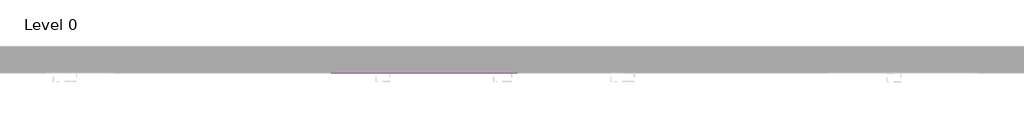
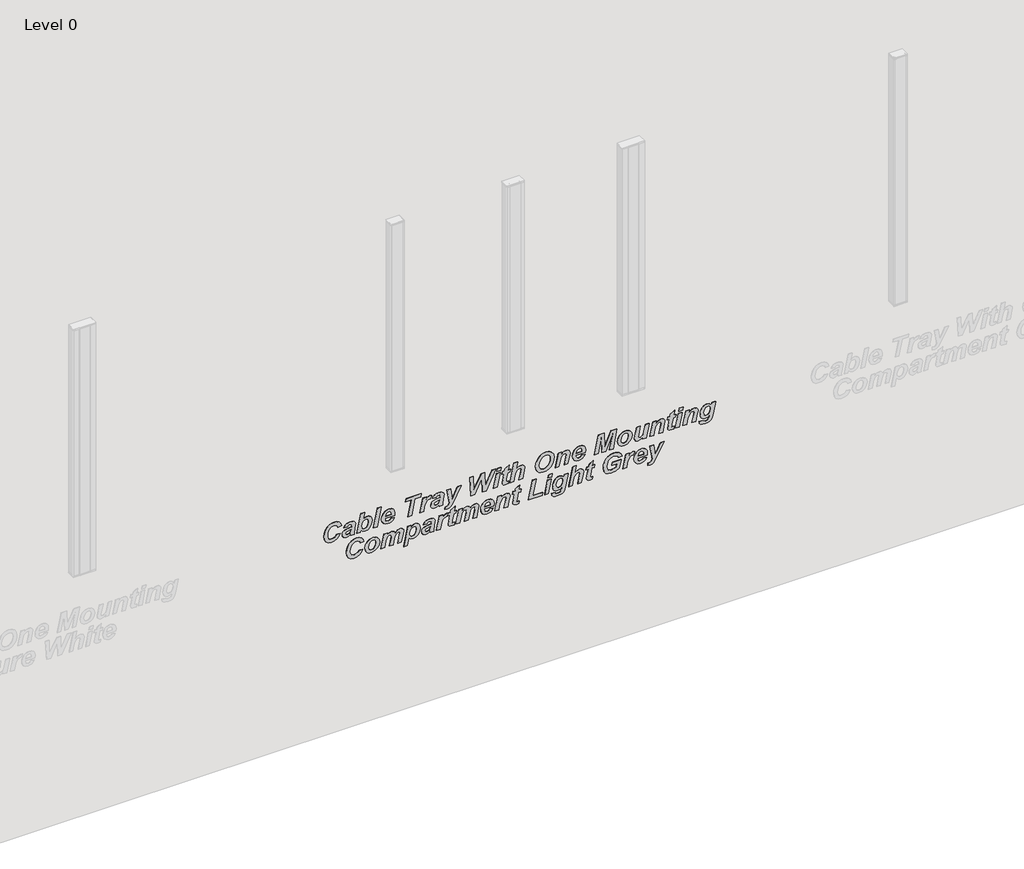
# One storey, part 3 of 5: 1 proxy.
"""IFC4 building model written with IfcOpenShell, lengths in millimetres."""

import ifcopenshell
import ifcopenshell.guid

model = None  # the IFC model being written
_history = None  # IfcOwnerHistory: only IFC2X3 demands one
_inside = {}  # id of a spatial element -> (the spatial element, [elements in it])
_under = {}  # id of a project, library or spatial element -> (it, [spatial elements below it])
_declared = {}  # id of a project -> (the project, [libraries it declares])
_typed = {}  # id of a type object -> (the type object, [elements of that type])
_made_of = {}  # id of a material, layer set ... -> (it, [elements and type objects made of it])


def new_model(schema):
    """Start an empty IFC model of exactly this schema.

    Asked for "IFC4X3", IfcOpenShell would pick the latest addendum, in which some entities
    have other attributes; the version numbers below select the first issue.
    IFC2X3 requires an IfcOwnerHistory on every rooted entity: one is made here for all.
    """
    global model, _history
    if schema == "IFC4X3":
        model = ifcopenshell.file(schema_version=(4, 3, 0, 0))
    else:
        model = ifcopenshell.file(schema=schema)
    _inside.clear()
    _under.clear()
    _declared.clear()
    _typed.clear()
    _made_of.clear()
    _history = None
    if model.schema == "IFC2X3":
        org = make("IfcOrganization", Name="unknown")
        user = make(
            "IfcPersonAndOrganization",
            ThePerson=make("IfcPerson", FamilyName="unknown"),
            TheOrganization=org,
        )
        app = make(
            "IfcApplication",
            ApplicationDeveloper=org,
            Version="unknown",
            ApplicationFullName="unknown",
            ApplicationIdentifier="unknown",
        )
        _history = make(
            "IfcOwnerHistory",
            OwningUser=user,
            OwningApplication=app,
            ChangeAction="ADDED",
            CreationDate=0,
        )
    return model


def make(cls, **values):
    """One entity of the class cls with the attributes given. An attribute that is None is left unset."""
    return model.create_entity(
        cls, **{name: value for name, value in values.items() if value is not None}
    )


def rooted(cls, **values):
    """An entity with a GlobalId (a new one), such as an element, a storey or a relation."""
    return make(cls, GlobalId=ifcopenshell.guid.new(), OwnerHistory=_history, **values)


def si_unit(unit_type, name, prefix=None):
    """IfcSIUnit, for example si_unit("LENGTHUNIT", "METRE", prefix="MILLI")."""
    return make("IfcSIUnit", UnitType=unit_type, Prefix=prefix, Name=name)


def assignment(units):
    """IfcUnitAssignment: the units of a project."""
    return None if units is None else make("IfcUnitAssignment", Units=units)


def point(xyz):
    """IfcCartesianPoint."""
    return None if xyz is None else make("IfcCartesianPoint", Coordinates=xyz)


def direction(xyz):
    """IfcDirection."""
    return None if xyz is None else make("IfcDirection", DirectionRatios=xyz)


def frame(location, z_axis=None, x_axis=None):
    """IfcAxis2Placement3D, a coordinate frame: its origin and axes. An axis left out is left unset."""
    return make(
        "IfcAxis2Placement3D",
        Location=point(location),
        Axis=direction(z_axis),
        RefDirection=direction(x_axis),
    )


def origin():
    """The frame at (0, 0, 0) with its axes left unset."""
    return frame((0.0, 0.0, 0.0))


def place(relative_to, where):
    """IfcLocalPlacement: puts the frame where relative to a parent placement (None: the world)."""
    return make(
        "IfcLocalPlacement", PlacementRelTo=relative_to, RelativePlacement=where
    )


def context(
    kind, dimensions, precision=None, world=None, true_north=None, identifier=None
):
    """IfcGeometricRepresentationContext, for example the 3D "Model" context."""
    return make(
        "IfcGeometricRepresentationContext",
        ContextIdentifier=identifier,
        ContextType=kind,
        CoordinateSpaceDimension=dimensions,
        Precision=precision,
        WorldCoordinateSystem=world,
        TrueNorth=true_north,
    )


def project(units=None, contexts=None):
    """IfcProject with its units and contexts."""
    return rooted(
        "IfcProject",
        Name="project",
        RepresentationContexts=contexts,
        UnitsInContext=assignment(units),
    )


def spatial(cls, under=None, at=None, **own):
    """A site, building, storey or space (cls), placed at a placement, below another one or the project."""
    s = rooted(cls, ObjectPlacement=at, **own)
    if under is not None:
        _under.setdefault(under.id(), (under, []))[1].append(s)
    return s


def polyline(points):
    """IfcPolyline through the points."""
    return make("IfcPolyline", Points=[point(p) for p in points])


def outline(outer, holes=None, kind="AREA"):
    """IfcArbitraryClosedProfileDef: a profile drawn as a closed curve; with holes, ...WithVoids."""
    if holes is None:
        return make("IfcArbitraryClosedProfileDef", ProfileType=kind, OuterCurve=outer)
    return make(
        "IfcArbitraryProfileDefWithVoids",
        ProfileType=kind,
        OuterCurve=outer,
        InnerCurves=holes,
    )


def extrude(swept, where, along, depth):
    """IfcExtrudedAreaSolid: the profile swept, set in the frame where, extruded along a direction by depth."""
    return make(
        "IfcExtrudedAreaSolid",
        SweptArea=swept,
        Position=where,
        ExtrudedDirection=direction(along),
        Depth=depth,
    )


def shape(context_of_items, identifier, shape_type, items):
    """IfcShapeRepresentation: the items that make up one representation, for example the "Body"."""
    return make(
        "IfcShapeRepresentation",
        ContextOfItems=context_of_items,
        RepresentationIdentifier=identifier,
        RepresentationType=shape_type,
        Items=items,
    )


def made_of(thing, what):
    """Note that an element or type object is made of a material, layer set ...; save() writes the relation."""
    if what is not None:
        _made_of.setdefault(what.id(), (what, []))[1].append(thing)
    return thing


def element(
    cls,
    number,
    at=None,
    inside=None,
    cuts=None,
    type_object=None,
    material=None,
    context=None,
    identifier="Body",
    shape_type=None,
    held_by="IfcProductDefinitionShape",
    body=None,
    shapes=None,
    **own,
):
    """One element of the class cls, such as IfcWall. Its Tag is "e" and its number.

    at: its placement. inside: the storey or other place that contains it. cuts: it is an
    opening in that element (IfcRelVoidsElement). A single representation is given by context,
    identifier, shape_type and body (its items); several are given by shapes. held_by: the class
    of the entity that holds the representations. save() writes the other relations.
    """
    e = rooted(cls, Tag="e%d" % number, ObjectPlacement=at, **own)
    if body is not None:
        shapes = [shape(context, identifier, shape_type, body)]
    if shapes is not None:
        e.Representation = make(held_by, Representations=shapes)
    if inside is not None:
        _inside.setdefault(inside.id(), (inside, []))[1].append(e)
    if cuts is not None:
        rooted(
            "IfcRelVoidsElement", RelatingBuildingElement=cuts, RelatedOpeningElement=e
        )
    if type_object is not None:
        _typed.setdefault(type_object.id(), (type_object, []))[1].append(e)
    return made_of(e, material)


def aggregate(whole, parts):
    """IfcRelAggregates: a whole, such as a stair, and the parts it consists of."""
    return rooted("IfcRelAggregates", RelatingObject=whole, RelatedObjects=parts)


def save(model, path):
    """Write the relations noted so far, then the file.

    IfcRelAggregates (storeys below a building ...), IfcRelContainedInSpatialStructure (elements
    in a storey), IfcRelDefinesByType, IfcRelAssociatesMaterial and IfcRelDeclares: one each for
    every whole, place, type object, material and project.
    """
    for whole, parts in _under.values():
        aggregate(whole, parts)
    for where, things in _inside.values():
        rooted(
            "IfcRelContainedInSpatialStructure",
            RelatedElements=things,
            RelatingStructure=where,
        )
    for kind, things in _typed.values():
        rooted("IfcRelDefinesByType", RelatedObjects=things, RelatingType=kind)
    for what, things in _made_of.values():
        rooted("IfcRelAssociatesMaterial", RelatedObjects=things, RelatingMaterial=what)
    for by, libraries in _declared.values():
        rooted("IfcRelDeclares", RelatingContext=by, RelatedDefinitions=libraries)
    model.write(path)


model = new_model("IFC4")

# Units and contexts
model_context = context("Model", 3, world=origin())
ifc_project = project(units=[si_unit("LENGTHUNIT", "METRE", prefix="MILLI")], contexts=[model_context])

# Site, building, storey
site = spatial("IfcSite", under=ifc_project)
building = spatial("IfcBuilding", under=site)
storey = spatial("IfcBuildingStorey", under=building, Name="Level 0", Elevation=0.0)

# Proxy
placement = place(None, origin())
element("IfcBuildingElementProxy", 1, Name="200 mm Arial", ObjectType="200 mm Arial", at=placement, inside=storey, context=model_context, shape_type="SweptSolid", body=[
    extrude(outline(polyline([(1591.7743973, -7840.8646037), (1581.4274851, -7847.2308612), (1573.973058, -7856.2105859), (1567.9648735, -7878.8110323), (1570.41093, -7890.9994623), (1577.7490996, -7901.0022525), (1589.5794568, -7907.6847302), (1605.5020758, -7909.9122228), (1621.9222767, -7908.2009132), (1638.3703794, -7903.0669847), (1652.6560937, -7895.0824237), (1662.5891294, -7884.8192168), (1668.4066517, -7872.9842094), (1670.3458258, -7860.2842466), (1668.9367857, -7849.4723046), (1664.7096651, -7841.0692168), (1657.348244, -7835.0377808), (1646.536302, -7831.3407942), (1649.2892782, -7802.7693656), (1668.8670312, -7808.493882), (1683.8502901, -7820.384693), (1693.364799, -7837.6698493), (1696.536302, -7859.5774013), (1693.7321726, -7880.3409802), (1685.3197842, -7899.4769549), (1671.6153571, -7915.8041498), (1652.9351115, -7928.1413894), (1630.6787871, -7935.8980859), (1606.2461235, -7938.4836513), (1578.5396502, -7934.6797079), (1558.2922544, -7923.2678775), (1545.9038615, -7905.0945144), (1541.7743973, -7881.0059728), (1544.7505877, -7858.5357347), (1553.6791592, -7839.1160918), (1568.2438913, -7823.46319), (1588.1285639, -7812.2931751), (1591.7743973, -7840.8646037)])), frame((0.0, 4018.0812827, 0.0), z_axis=(0.0, 1.0, 0.0), x_axis=(0.0, 0.0, 1.0)), (0.0, 0.0, 1.0), 3.0),
    extrude(outline(polyline([(1622.7267782, -7757.5312704), (1631.5251413, -7751.3928775), (1634.6315401, -7739.0788894), (1631.3763318, -7727.9553775), (1623.2848139, -7724.1979371), (1613.2029687, -7726.1324609), (1609.036302, -7754.0342466), (1605.2742112, -7774.9931379), (1597.8569865, -7788.3906454), (1587.0636458, -7795.603257), (1573.1732068, -7798.0074609), (1560.598802, -7795.8404222), (1550.5541592, -7789.3393061), (1543.9693377, -7779.5085769), (1541.7743973, -7767.352699), (1545.4946354, -7750.7232347), (1556.2833258, -7736.102699), (1544.1553496, -7733.7217466), (1544.1553496, -7704.6294847), (1559.7059449, -7707.5312704), (1587.0868973, -7702.9925799), (1616.3093675, -7696.5379668), (1626.8190401, -7695.6265085), (1638.1239136, -7698.1330189), (1647.5593675, -7705.6525501), (1653.9349255, -7718.4083165), (1656.0601115, -7736.6235323), (1654.0093303, -7754.7736439), (1647.8569865, -7768.9710025), (1638.0588095, -7779.3644177), (1625.0705282, -7786.102699), (1622.7267782, -7757.5312704)]), holes=[polyline([(1594.1553496, -7730.2619251), (1590.286302, -7731.1175799), (1574.6240996, -7736.0840978), (1566.4023735, -7744.5290382), (1563.2029687, -7756.5640085), (1566.6999925, -7765.9018061), (1575.2937425, -7769.4360323), (1585.1151711, -7764.8229371), (1592.8532663, -7737.0699609), (1594.1553496, -7730.2619251)])]), frame((0.0, 4018.0812827, 0.0), z_axis=(0.0, 1.0, 0.0), x_axis=(0.0, 0.0, 1.0)), (0.0, 0.0, 1.0), 3.0),
    extrude(outline(polyline([(1544.1553496, -7686.102699), (1544.1553496, -7659.4285918), (1561.380052, -7655.6711513), (1546.675811, -7641.915571), (1541.7743973, -7622.0774013), (1546.0340699, -7603.680824), (1559.0921056, -7586.9397525), (1581.9157663, -7574.1979371), (1610.8220163, -7569.4360323), (1630.2881621, -7572.0076469), (1644.4901711, -7579.7224906), (1653.1676264, -7591.7063076), (1656.0601115, -7607.0848418), (1653.4187425, -7622.3192168), (1644.6017782, -7637.3303775), (1694.1553496, -7626.3928775), (1694.1553496, -7655.4851394), (1544.1553496, -7686.102699)]), holes=[polyline([(1588.1657663, -7648.0074609), (1608.1713467, -7645.2916871), (1624.2892782, -7637.1443656), (1632.0459746, -7628.4855115), (1634.6315401, -7618.2827585), (1632.9620833, -7610.49351), (1627.9537127, -7603.9412406), (1620.0249553, -7599.4909058), (1609.5943377, -7598.0074609), (1585.7662127, -7602.415943), (1568.5787127, -7613.4650501), (1563.2029687, -7627.4345442), (1564.9375297, -7635.1912406), (1570.1412127, -7641.869068), (1578.1164732, -7646.4728626), (1588.1657663, -7648.0074609)])]), frame((0.0, 4018.0812827, 0.0), z_axis=(0.0, 1.0, 0.0), x_axis=(0.0, 0.0, 1.0)), (0.0, 0.0, 1.0), 3.0),
    extrude(outline(polyline([(1544.1553496, -7559.9122228), (1544.1553496, -7530.8199609), (1694.1553496, -7500.2396037), (1694.1553496, -7529.2946632), (1544.1553496, -7559.9122228)])), frame((0.0, 4018.0812827, 0.0), z_axis=(0.0, 1.0, 0.0), x_axis=(0.0, 0.0, 1.0)), (0.0, 0.0, 1.0), 3.0),
    extrude(outline(polyline([(1589.3934449, -7397.6354371), (1608.738683, -7395.6265085), (1628.6512574, -7398.5189936), (1643.5973139, -7407.196449), (1652.9444121, -7420.7846186), (1656.0601115, -7438.4092466), (1654.5836421, -7452.9251506), (1650.1542336, -7465.6692912), (1642.7718861, -7476.6416684), (1632.4365996, -7485.8422823), (1613.723802, -7494.9661662), (1592.5556473, -7498.0074609), (1571.8850743, -7494.6173939), (1555.7066889, -7484.447193), (1545.2574702, -7468.8547451), (1541.7743973, -7449.1979371), (1543.7089211, -7434.1635248), (1549.5124925, -7420.6823121), (1559.1851115, -7409.2565308), (1572.7267782, -7400.3884132), (1577.488683, -7426.5788894), (1566.7743973, -7436.1119996), (1563.2029687, -7448.7887109), (1564.8259226, -7456.8244251), (1569.6947842, -7463.5208537), (1577.2143154, -7468.040943), (1586.7892782, -7469.5476394), (1589.3934449, -7469.4360323), (1589.3934449, -7397.6354371)]), holes=[polyline([(1606.0601115, -7424.1979371), (1606.0601115, -7466.5342466), (1618.4671056, -7463.1116275), (1627.4142782, -7457.5312704), (1632.8272246, -7450.4442168), (1634.6315401, -7442.5015085), (1633.0411383, -7434.9447748), (1628.269933, -7429.0900501), (1620.317924, -7425.33726), (1609.1851115, -7424.0863299), (1606.0601115, -7424.1979371)])]), frame((0.0, 4018.0812827, 0.0), z_axis=(0.0, 1.0, 0.0), x_axis=(0.0, 0.0, 1.0)), (0.0, 0.0, 1.0), 3.0),
    extrude(outline(polyline([(1544.1553496, -7268.0595442), (1670.3458258, -7242.5759132), (1670.3458258, -7198.0074609), (1694.1553496, -7193.2455561), (1694.1553496, -7309.9122228), (1670.3458258, -7314.6741275), (1670.3458258, -7271.6681751), (1544.1553496, -7297.1518061), (1544.1553496, -7268.0595442)])), frame((0.0, 4018.0812827, 0.0), z_axis=(0.0, 1.0, 0.0), x_axis=(0.0, 0.0, 1.0)), (0.0, 0.0, 1.0), 3.0),
    extrude(outline(polyline([(1653.6791592, -7183.0149013), (1544.1553496, -7205.150318), (1544.1553496, -7176.0952585), (1577.9723139, -7169.2872228), (1608.6270758, -7160.5446632), (1624.0846651, -7148.2306751), (1629.8696354, -7132.7544847), (1628.4559449, -7124.1979371), (1652.8235044, -7112.2931751), (1656.0601115, -7125.6116275), (1650.2472395, -7142.5387109), (1632.8086235, -7158.2009132), (1653.6791592, -7153.9598418), (1653.6791592, -7183.0149013)])), frame((0.0, 4018.0812827, 0.0), z_axis=(0.0, 1.0, 0.0), x_axis=(0.0, 0.0, 1.0)), (0.0, 0.0, 1.0), 3.0),
    extrude(outline(polyline([(1622.7267782, -7081.3407942), (1631.5251413, -7075.2024013), (1634.6315401, -7062.8884132), (1631.3763318, -7051.7649013), (1623.2848139, -7048.0074609), (1613.2029687, -7049.9419847), (1609.036302, -7077.8437704), (1605.2742112, -7098.8026618), (1597.8569865, -7112.2001692), (1587.0636458, -7119.4127808), (1573.1732068, -7121.8169847), (1560.598802, -7119.649946), (1550.5541592, -7113.1488299), (1543.9693377, -7103.3181007), (1541.7743973, -7091.1622228), (1545.4946354, -7074.5327585), (1556.2833258, -7059.9122228), (1544.1553496, -7057.5312704), (1544.1553496, -7028.4390085), (1559.7059449, -7031.3407942), (1587.0868973, -7026.8021037), (1616.3093675, -7020.3474906), (1626.8190401, -7019.4360323), (1638.1239136, -7021.9425427), (1647.5593675, -7029.462074), (1653.9349255, -7042.2178403), (1656.0601115, -7060.4330561), (1654.0093303, -7078.5831677), (1647.8569865, -7092.7805263), (1638.0588095, -7103.1739415), (1625.0705282, -7109.9122228), (1622.7267782, -7081.3407942)]), holes=[polyline([(1594.1553496, -7054.071449), (1590.286302, -7054.9271037), (1574.6240996, -7059.8936216), (1566.4023735, -7068.3385621), (1563.2029687, -7080.3735323), (1566.6999925, -7089.7113299), (1575.2937425, -7093.2455561), (1585.1151711, -7088.6324609), (1592.8532663, -7060.8794847), (1594.1553496, -7054.071449)])]), frame((0.0, 4018.0812827, 0.0), z_axis=(0.0, 1.0, 0.0), x_axis=(0.0, 0.0, 1.0)), (0.0, 0.0, 1.0), 3.0),
    extrude(outline(polyline([(1653.6791592, -6998.0074609), (1544.1553496, -6981.3407942), (1528.0839211, -6990.7529966), (1522.7267782, -7002.4717466), (1524.2520758, -7012.2931751), (1504.2743973, -7014.6741275), (1501.2982068, -6994.3988299), (1504.4232068, -6978.8296335), (1513.035558, -6967.743324), (1532.2505877, -6955.150318), (1653.6791592, -6888.0744251), (1653.6791592, -6919.4360323), (1603.1955282, -6943.3943656), (1570.3458258, -6958.9821632), (1598.2104092, -6962.3675799), (1653.6791592, -6969.1384132), (1653.6791592, -6998.0074609)])), frame((0.0, 4018.0812827, 0.0), z_axis=(0.0, 1.0, 0.0), x_axis=(0.0, 0.0, 1.0)), (0.0, 0.0, 1.0), 3.0),
    extrude(outline(polyline([(1544.1553496, -6698.0074609), (1694.1553496, -6626.5788894), (1694.1553496, -6655.150318), (1590.286302, -6705.150318), (1694.1553496, -6707.5312704), (1694.1553496, -6737.4419847), (1589.1702306, -6793.2455561), (1694.1553496, -6795.6265085), (1694.1553496, -6824.1979371), (1544.1553496, -6814.6741275), (1544.1553496, -6783.7217466), (1653.8279687, -6731.3407942), (1544.1553496, -6728.9598418), (1544.1553496, -6698.0074609)])), frame((0.0, 4018.0812827, 0.0), z_axis=(0.0, 1.0, 0.0), x_axis=(0.0, 0.0, 1.0)), (0.0, 0.0, 1.0), 3.0),
    extrude(outline(polyline([(1653.6791592, -6620.8869251), (1544.1553496, -6643.2455561), (1544.1553496, -6614.1532942), (1653.6791592, -6591.7946632), (1653.6791592, -6620.8869251)])), frame((0.0, 4018.0812827, 0.0), z_axis=(0.0, 1.0, 0.0), x_axis=(0.0, 0.0, 1.0)), (0.0, 0.0, 1.0), 3.0),
    extrude(outline(polyline([(1694.1553496, -6612.6279966), (1670.3458258, -6617.5015085), (1670.3458258, -6588.4092466), (1694.1553496, -6583.5357347), (1694.1553496, -6612.6279966)])), frame((0.0, 4018.0812827, 0.0), z_axis=(0.0, 1.0, 0.0), x_axis=(0.0, 0.0, 1.0)), (0.0, 0.0, 1.0), 3.0),
    extrude(outline(polyline([(1632.2505877, -6578.9598418), (1632.2505877, -6563.0744251), (1586.7148735, -6572.0774013), (1563.9842187, -6576.5788894), (1554.6743229, -6574.8117763), (1547.6523735, -6569.5104371), (1543.2438913, -6560.321449), (1541.7743973, -6546.8913894), (1543.1880877, -6531.3407942), (1563.2029687, -6526.5788894), (1562.5333258, -6536.3631156), (1564.4306473, -6544.212818), (1569.7133854, -6546.3705561), (1583.7758854, -6543.5431751), (1632.2505877, -6533.9077585), (1632.2505877, -6517.0550799), (1653.6791592, -6512.2931751), (1653.6791592, -6529.6294847), (1689.3934449, -6522.4866275), (1670.3458258, -6555.3363299), (1653.6791592, -6558.8333537), (1653.6791592, -6574.1979371), (1632.2505877, -6578.9598418)])), frame((0.0, 4018.0812827, 0.0), z_axis=(0.0, 1.0, 0.0), x_axis=(0.0, 0.0, 1.0)), (0.0, 0.0, 1.0), 3.0),
    extrude(outline(polyline([(1544.1553496, -6487.962818), (1587.0868973, -6479.1830561), (1612.7565401, -6472.5982347), (1629.4604092, -6459.056568), (1634.6315401, -6444.7708537), (1631.1903199, -6435.4702585), (1622.019933, -6432.0476394), (1608.4410639, -6434.7262109), (1544.1553496, -6448.0074609), (1544.1553496, -6418.915199), (1607.2133854, -6405.8943656), (1627.005052, -6401.8393061), (1638.7749553, -6403.7877808), (1648.0429985, -6409.6332049), (1654.0558333, -6418.8361439), (1656.0601115, -6430.8571632), (1652.3026711, -6449.5699609), (1640.0258854, -6468.3943656), (1694.1553496, -6457.3452585), (1694.1553496, -6486.4375204), (1544.1553496, -6517.0550799), (1544.1553496, -6487.962818)])), frame((0.0, 4018.0812827, 0.0), z_axis=(0.0, 1.0, 0.0), x_axis=(0.0, 0.0, 1.0)), (0.0, 0.0, 1.0), 3.0),
    extrude(outline(polyline([(1603.0839211, -6321.8169847), (1574.7729092, -6316.0134132), (1561.8822842, -6308.1823121), (1551.2610044, -6296.2961513), (1544.146049, -6280.7269549), (1541.7743973, -6261.8467466), (1544.7598883, -6239.4509132), (1553.7163615, -6219.5104371), (1568.2066889, -6202.7461141), (1587.7937425, -6189.8787406), (1610.3104836, -6181.6895665), (1633.5898735, -6178.9598418), (1659.2455654, -6183.14976), (1679.2929985, -6195.7195144), (1692.2254761, -6215.0973046), (1696.536302, -6239.7113299), (1694.4343675, -6258.9496112), (1688.1285639, -6275.9650501), (1678.2001785, -6290.5111811), (1665.2304985, -6302.3415382), (1649.4334374, -6311.4700725), (1631.0229092, -6317.9107347), (1603.0839211, -6321.8169847)]), holes=[polyline([(1603.8279687, -6293.2455561), (1627.6979464, -6289.6601766), (1649.5310937, -6278.9040382), (1665.1421428, -6262.4280338), (1670.3458258, -6241.6830561), (1667.8579166, -6228.1134876), (1660.3941889, -6217.1666871), (1648.5591815, -6209.9401246), (1632.957433, -6207.5312704), (1617.0766666, -6209.4332421), (1600.7587723, -6215.1391573), (1586.3242485, -6223.7561588), (1576.0935937, -6234.3913894), (1569.9970535, -6246.2868507), (1567.9648735, -6258.6845442), (1570.5411383, -6272.7005412), (1578.269933, -6283.7217466), (1589.8119717, -6290.8646037), (1603.8279687, -6293.2455561)])]), frame((0.0, 4018.0812827, 0.0), z_axis=(0.0, 1.0, 0.0), x_axis=(0.0, 0.0, 1.0)), (0.0, 0.0, 1.0), 3.0),
    extrude(outline(polyline([(1653.6791592, -6149.681568), (1544.1553496, -6171.8169847), (1544.1553496, -6142.7619251), (1588.6121949, -6133.758949), (1614.7282663, -6125.3140085), (1629.1627901, -6113.2046335), (1634.6315401, -6099.1607347), (1631.2275223, -6090.1019549), (1621.8711235, -6086.8467466), (1605.4276711, -6090.1205561), (1544.1553496, -6102.7693656), (1544.1553496, -6073.6771037), (1605.2044568, -6061.0654966), (1626.4098139, -6056.712818), (1638.5098883, -6058.6380412), (1647.9499925, -6064.4137109), (1654.0325818, -6073.5189936), (1656.0601115, -6085.4330561), (1651.8562425, -6104.462074), (1637.7565401, -6123.8631156), (1653.6791592, -6120.6265085), (1653.6791592, -6149.681568)])), frame((0.0, 4018.0812827, 0.0), z_axis=(0.0, 1.0, 0.0), x_axis=(0.0, 0.0, 1.0)), (0.0, 0.0, 1.0), 3.0),
    extrude(outline(polyline([(1589.3934449, -5940.4925799), (1608.738683, -5938.4836513), (1628.6512574, -5941.3761365), (1643.5973139, -5950.0535918), (1652.9444121, -5963.6417615), (1656.0601115, -5981.2663894), (1654.5836421, -5995.7822934), (1650.1542336, -6008.5264341), (1642.7718861, -6019.4988113), (1632.4365996, -6028.6994251), (1613.723802, -6037.8233091), (1592.5556473, -6040.8646037), (1571.8850743, -6037.4745368), (1555.7066889, -6027.3043359), (1545.2574702, -6011.7118879), (1541.7743973, -5992.0550799), (1543.7089211, -5977.0206677), (1549.5124925, -5963.5394549), (1559.1851115, -5952.1136737), (1572.7267782, -5943.2455561), (1577.488683, -5969.4360323), (1566.7743973, -5978.9691424), (1563.2029687, -5991.6458537), (1564.8259226, -5999.681568), (1569.6947842, -6006.3779966), (1577.2143154, -6010.8980859), (1586.7892782, -6012.4047823), (1589.3934449, -6012.2931751), (1589.3934449, -5940.4925799)]), holes=[polyline([(1606.0601115, -5967.0550799), (1606.0601115, -6009.3913894), (1618.4671056, -6005.9687704), (1627.4142782, -6000.3884132), (1632.8272246, -5993.3013597), (1634.6315401, -5985.3586513), (1633.0411383, -5977.8019177), (1628.269933, -5971.947193), (1620.317924, -5968.1944028), (1609.1851115, -5966.9434728), (1606.0601115, -5967.0550799)])]), frame((0.0, 4018.0812827, 0.0), z_axis=(0.0, 1.0, 0.0), x_axis=(0.0, 0.0, 1.0)), (0.0, 0.0, 1.0), 3.0),
    extrude(outline(polyline([(1544.1553496, -5786.102699), (1667.9648735, -5732.5312704), (1544.1553496, -5757.5312704), (1544.1553496, -5728.4390085), (1694.1553496, -5700.2768061), (1694.1553496, -5746.258949), (1586.7148735, -5793.2455561), (1694.1553496, -5797.821449), (1694.1553496, -5841.571449), (1544.1553496, -5872.2262109), (1544.1553496, -5843.2455561), (1668.0392782, -5820.6265085), (1544.1553496, -5814.6741275), (1544.1553496, -5786.102699)])), frame((0.0, 4018.0812827, 0.0), z_axis=(0.0, 1.0, 0.0), x_axis=(0.0, 0.0, 1.0)), (0.0, 0.0, 1.0), 3.0),
    extrude(outline(polyline([(1589.6538615, -5695.6265085), (1565.4165104, -5689.8415382), (1555.4044196, -5682.5591722), (1547.9499925, -5672.2820144), (1543.3182961, -5659.6471558), (1541.7743973, -5645.2916871), (1546.6060565, -5620.040571), (1561.1010342, -5600.462818), (1582.2180357, -5587.9070144), (1606.9157663, -5583.7217466), (1627.1259598, -5587.0699609), (1642.7416592, -5597.1146037), (1652.7304985, -5613.1209281), (1656.0601115, -5634.3541871), (1651.5493229, -5659.1960769), (1638.0169568, -5678.7366275), (1616.9046056, -5691.4040382), (1589.6538615, -5695.6265085)]), holes=[polyline([(1610.7848139, -5612.2931751), (1590.7048288, -5615.2414638), (1573.9172544, -5624.0863299), (1565.8815401, -5633.3311216), (1563.2029687, -5644.5476394), (1564.9793824, -5653.4297079), (1570.3086235, -5660.6562704), (1578.6512574, -5665.4553775), (1589.4678496, -5667.0550799), (1610.8406175, -5662.9256156), (1628.5303496, -5651.3556751), (1633.1062425, -5643.3757644), (1634.6315401, -5634.3169847), (1633.003936, -5625.4953701), (1628.1211235, -5618.4501692), (1620.5318377, -5613.8324237), (1610.7848139, -5612.2931751)])]), frame((0.0, 4018.0812827, 0.0), z_axis=(0.0, 1.0, 0.0), x_axis=(0.0, 0.0, 1.0)), (0.0, 0.0, 1.0), 3.0),
    extrude(outline(polyline([(1653.6791592, -5549.4583537), (1592.2580282, -5563.2232347), (1569.5273735, -5566.9806751), (1558.129494, -5565.1438076), (1549.3078794, -5559.6332049), (1543.6577678, -5550.9045963), (1541.7743973, -5539.4137109), (1546.1363764, -5519.8917615), (1559.2223139, -5501.8765085), (1544.1553496, -5504.9643061), (1544.1553496, -5476.0580561), (1653.6791592, -5453.6994251), (1653.6791592, -5482.7916871), (1600.2565401, -5493.5803775), (1585.4499925, -5497.5982347), (1575.6099627, -5503.3460025), (1568.9693377, -5510.2656454), (1564.6352604, -5517.7991275), (1563.2029687, -5525.2396037), (1566.5883854, -5533.8519549), (1574.6985044, -5537.2187704), (1589.1702306, -5534.6146037), (1653.6791592, -5520.3660918), (1653.6791592, -5549.4583537)])), frame((0.0, 4018.0812827, 0.0), z_axis=(0.0, 1.0, 0.0), x_axis=(0.0, 0.0, 1.0)), (0.0, 0.0, 1.0), 3.0),
    extrude(outline(polyline([(1653.6791592, -5425.8720442), (1544.1553496, -5448.0074609), (1544.1553496, -5418.9524013), (1588.6121949, -5409.9494251), (1614.7282663, -5401.5044847), (1629.1627901, -5389.3951097), (1634.6315401, -5375.3512109), (1631.2275223, -5366.2924311), (1621.8711235, -5363.0372228), (1605.4276711, -5366.3110323), (1544.1553496, -5378.9598418), (1544.1553496, -5349.8675799), (1605.2044568, -5337.2559728), (1626.4098139, -5332.9032942), (1638.5098883, -5334.8285174), (1647.9499925, -5340.6041871), (1654.0325818, -5349.7094698), (1656.0601115, -5361.6235323), (1651.8562425, -5380.6525501), (1637.7565401, -5400.0535918), (1653.6791592, -5396.8169847), (1653.6791592, -5425.8720442)])), frame((0.0, 4018.0812827, 0.0), z_axis=(0.0, 1.0, 0.0), x_axis=(0.0, 0.0, 1.0)), (0.0, 0.0, 1.0), 3.0),
    extrude(outline(polyline([(1632.2505877, -5314.6741275), (1632.2505877, -5298.7887109), (1586.7148735, -5307.7916871), (1563.9842187, -5312.2931751), (1554.6743229, -5310.5260621), (1547.6523735, -5305.2247228), (1543.2438913, -5296.0357347), (1541.7743973, -5282.6056751), (1543.1880877, -5267.0550799), (1563.2029687, -5262.2931751), (1562.5333258, -5272.0774013), (1564.4306473, -5279.9271037), (1569.7133854, -5282.0848418), (1583.7758854, -5279.2574609), (1632.2505877, -5269.6220442), (1632.2505877, -5252.7693656), (1653.6791592, -5248.0074609), (1653.6791592, -5265.3437704), (1689.3934449, -5258.2009132), (1670.3458258, -5291.0506156), (1653.6791592, -5294.5476394), (1653.6791592, -5309.9122228), (1632.2505877, -5314.6741275)])), frame((0.0, 4018.0812827, 0.0), z_axis=(0.0, 1.0, 0.0), x_axis=(0.0, 0.0, 1.0)), (0.0, 0.0, 1.0), 3.0),
    extrude(outline(polyline([(1653.6791592, -5230.4107347), (1544.1553496, -5252.7693656), (1544.1553496, -5223.6771037), (1653.6791592, -5201.3184728), (1653.6791592, -5230.4107347)])), frame((0.0, 4018.0812827, 0.0), z_axis=(0.0, 1.0, 0.0), x_axis=(0.0, 0.0, 1.0)), (0.0, 0.0, 1.0), 3.0),
    extrude(outline(polyline([(1694.1553496, -5222.1518061), (1670.3458258, -5227.025318), (1670.3458258, -5197.9330561), (1694.1553496, -5193.0595442), (1694.1553496, -5222.1518061)])), frame((0.0, 4018.0812827, 0.0), z_axis=(0.0, 1.0, 0.0), x_axis=(0.0, 0.0, 1.0)), (0.0, 0.0, 1.0), 3.0),
    extrude(outline(polyline([(1653.6791592, -5173.4910918), (1544.1553496, -5195.6265085), (1544.1553496, -5166.571449), (1588.6121949, -5157.5684728), (1614.7282663, -5149.1235323), (1629.1627901, -5137.0141573), (1634.6315401, -5122.9702585), (1631.2275223, -5113.9114787), (1621.8711235, -5110.6562704), (1605.4276711, -5113.9300799), (1544.1553496, -5126.5788894), (1544.1553496, -5097.4866275), (1605.2044568, -5084.8750204), (1626.4098139, -5080.5223418), (1638.5098883, -5082.447565), (1647.9499925, -5088.2232347), (1654.0325818, -5097.3285174), (1656.0601115, -5109.2425799), (1651.8562425, -5128.2715978), (1637.7565401, -5147.6726394), (1653.6791592, -5144.4360323), (1653.6791592, -5173.4910918)])), frame((0.0, 4018.0812827, 0.0), z_axis=(0.0, 1.0, 0.0), x_axis=(0.0, 0.0, 1.0)), (0.0, 0.0, 1.0), 3.0),
    extrude(outline(polyline([(1534.6315401, -5072.5982347), (1530.911302, -5072.8958537), (1517.2580282, -5069.8034058), (1508.1434449, -5060.5260621), (1503.0095163, -5045.1940308), (1501.2982068, -5023.9375204), (1502.879308, -5005.5037406), (1508.0876413, -4990.7529966), (1517.0534151, -4980.4107347), (1531.4135342, -4973.1376692), (1561.5288615, -4965.3437704), (1653.6791592, -4946.3705561), (1653.6791592, -4975.4256156), (1634.3711235, -4979.4062704), (1650.3495461, -4992.8921335), (1656.0601115, -5011.9583537), (1654.0093303, -5025.0675427), (1647.8569865, -5037.9070144), (1637.7053868, -5049.1932868), (1623.6568377, -5057.6428775), (1606.8599627, -5062.916315), (1588.4633854, -5064.6741275), (1569.3460118, -5062.0885621), (1555.4462723, -5054.3318656), (1546.9780803, -5042.5387109), (1544.1553496, -5027.8437704), (1547.2896502, -5011.3631156), (1556.692552, -4995.4032942), (1551.5958258, -4996.4821632), (1535.0035639, -5000.7976394), (1526.223802, -5007.8288894), (1522.7267782, -5023.1934728), (1523.880052, -5035.0424311), (1526.6702306, -5041.3110323), (1531.5437425, -5043.2455561), (1534.6315401, -5072.5982347)]), holes=[polyline([(1591.0303496, -5036.102699), (1609.0735044, -5032.7916871), (1628.3815401, -5021.7425799), (1634.6315401, -5007.0476394), (1632.8597767, -4999.383949), (1627.5444865, -4992.6875204), (1619.3367112, -4988.0279222), (1608.8874925, -4986.4747228), (1588.0541592, -4990.306568), (1571.4246949, -5001.3556751), (1565.5839211, -5016.2366275), (1567.2115252, -5024.0444772), (1572.0943377, -5030.4293359), (1580.083549, -5034.6843582), (1591.0303496, -5036.102699)])]), frame((0.0, 4018.0812827, 0.0), z_axis=(0.0, 1.0, 0.0), x_axis=(0.0, 0.0, 1.0)), (0.0, 0.0, 1.0), 3.0),
    extrude(outline(polyline([(1403.6791592, -7669.4360323), (1393.332247, -7675.8022897), (1385.8778199, -7684.7820144), (1379.8696354, -7707.3824609), (1382.3156919, -7719.5708909), (1389.6538615, -7729.5736811), (1401.4842187, -7736.2561588), (1417.4068377, -7738.4836513), (1433.8270386, -7736.7723418), (1450.2751413, -7731.6384132), (1464.5608556, -7723.6538522), (1474.4938913, -7713.3906454), (1480.3114136, -7701.5556379), (1482.2505877, -7688.8556751), (1480.8415476, -7678.0437332), (1476.614427, -7669.6406454), (1469.2530059, -7663.6092094), (1458.4410639, -7659.9122228), (1461.1940401, -7631.3407942), (1480.7717931, -7637.0653106), (1495.755052, -7648.9561216), (1505.269561, -7666.2412778), (1508.4410639, -7688.1488299), (1505.6369345, -7708.9124088), (1497.2245461, -7728.0483835), (1483.520119, -7744.3755784), (1464.8398735, -7756.712818), (1442.583549, -7764.4695144), (1418.1508854, -7767.0550799), (1390.4444121, -7763.2511365), (1370.1970163, -7751.8393061), (1357.8086235, -7733.665943), (1353.6791592, -7709.5774013), (1356.6553496, -7687.1071632), (1365.5839211, -7667.6875204), (1380.1486532, -7652.0346186), (1400.0333258, -7640.8646037), (1403.6791592, -7669.4360323)])), frame((0.0, 4018.0812827, 0.0), z_axis=(0.0, 1.0, 0.0), x_axis=(0.0, 0.0, 1.0)), (0.0, 0.0, 1.0), 3.0),
    extrude(outline(polyline([(1401.5586235, -7624.1979371), (1377.3212723, -7618.4129668), (1367.3091815, -7611.1306007), (1359.8547544, -7600.853443), (1355.223058, -7588.2185844), (1353.6791592, -7573.8631156), (1358.5108184, -7548.6119996), (1373.0057961, -7529.0342466), (1394.1227976, -7516.478443), (1418.8205282, -7512.2931751), (1439.0307217, -7515.6413894), (1454.6464211, -7525.6860323), (1464.6352604, -7541.6923567), (1467.9648735, -7562.9256156), (1463.4540848, -7587.7675055), (1449.9217187, -7607.3080561), (1428.8093675, -7619.9754668), (1401.5586235, -7624.1979371)]), holes=[polyline([(1422.6895758, -7540.8646037), (1402.6095907, -7543.8128924), (1385.8220163, -7552.6577585), (1377.786302, -7561.9025501), (1375.1077306, -7573.119068), (1376.8841443, -7582.0011365), (1382.2133854, -7589.227699), (1390.5560193, -7594.0268061), (1401.3726115, -7595.6265085), (1422.7453794, -7591.4970442), (1440.4351115, -7579.9271037), (1445.0110044, -7571.947193), (1446.536302, -7562.8884132), (1444.9086979, -7554.0667987), (1440.0258854, -7547.0215978), (1432.4365996, -7542.4038522), (1422.6895758, -7540.8646037)])]), frame((0.0, 4018.0812827, 0.0), z_axis=(0.0, 1.0, 0.0), x_axis=(0.0, 0.0, 1.0)), (0.0, 0.0, 1.0), 3.0),
    extrude(outline(polyline([(1465.5839211, -7480.633949), (1356.0601115, -7502.7693656), (1356.0601115, -7473.7143061), (1405.613683, -7463.6696632), (1422.5407663, -7458.4985323), (1435.6360044, -7452.025318), (1443.6345163, -7443.2455561), (1446.536302, -7433.5357347), (1443.7647246, -7425.6302287), (1436.6776711, -7422.7470442), (1421.9083258, -7425.0907942), (1356.0601115, -7438.4836513), (1356.0601115, -7409.3913894), (1404.6836235, -7399.3467466), (1434.7059449, -7388.5580561), (1443.5787127, -7379.2574609), (1446.536302, -7368.7663894), (1443.6159151, -7360.5446632), (1435.6360044, -7357.7916871), (1421.4618973, -7360.7306751), (1356.0601115, -7374.1979371), (1356.0601115, -7345.1056751), (1421.4618973, -7331.6384132), (1440.4723139, -7327.7321632), (1451.6748809, -7329.5457793), (1460.4313913, -7334.9866275), (1466.0815029, -7343.6826841), (1467.9648735, -7355.2619251), (1462.3287127, -7377.1369251), (1448.3220163, -7393.2827585), (1462.7379389, -7401.7835025), (1466.6581398, -7409.8331677), (1467.9648735, -7420.7009132), (1463.5377901, -7438.1023269), (1450.2565401, -7454.6666871), (1465.5839211, -7451.5788894), (1465.5839211, -7480.633949)])), frame((0.0, 4018.0812827, 0.0), z_axis=(0.0, 1.0, 0.0), x_axis=(0.0, 0.0, 1.0)), (0.0, 0.0, 1.0), 3.0),
    extrude(outline(polyline([(1465.5839211, -7298.0074609), (1313.2029687, -7328.9598418), (1313.2029687, -7299.9047823), (1370.755052, -7288.1860323), (1357.9481324, -7274.728071), (1353.6791592, -7256.0803775), (1358.0225371, -7236.8467466), (1371.0526711, -7220.3660918), (1393.6903199, -7207.1685472), (1420.9038615, -7202.7693656), (1441.4349255, -7205.2712257), (1456.1531175, -7212.7768061), (1465.0119345, -7224.3932496), (1467.9648735, -7239.227699), (1464.7468675, -7255.2805263), (1454.051183, -7271.3333537), (1465.5839211, -7268.9896037), (1465.5839211, -7298.0074609)]), holes=[polyline([(1402.4142782, -7281.8244251), (1422.8383854, -7278.0297823), (1440.5281175, -7267.3340978), (1446.536302, -7252.025318), (1444.894747, -7243.8128924), (1439.9700818, -7237.181568), (1431.957619, -7232.8009876), (1421.0526711, -7231.3407942), (1398.1546056, -7235.7864787), (1380.4462723, -7247.0029966), (1375.1077306, -7261.0282942), (1376.8980952, -7268.8826469), (1382.2691889, -7275.6302287), (1390.8861904, -7280.275876), (1402.4142782, -7281.8244251)])]), frame((0.0, 4018.0812827, 0.0), z_axis=(0.0, 1.0, 0.0), x_axis=(0.0, 0.0, 1.0)), (0.0, 0.0, 1.0), 3.0),
    extrude(outline(polyline([(1434.6315401, -7150.3884132), (1443.4299032, -7144.2500204), (1446.536302, -7131.9360323), (1443.2810937, -7120.8125204), (1435.1895758, -7117.0550799), (1425.1077306, -7118.9896037), (1420.9410639, -7146.8913894), (1417.1789732, -7167.8502808), (1409.7617485, -7181.2477882), (1398.9684077, -7188.4603998), (1385.0779687, -7190.8646037), (1372.5035639, -7188.697565), (1362.4589211, -7182.196449), (1355.8740996, -7172.3657198), (1353.6791592, -7160.2098418), (1357.3993973, -7143.5803775), (1368.1880877, -7128.9598418), (1356.0601115, -7126.5788894), (1356.0601115, -7097.4866275), (1371.6107068, -7100.3884132), (1398.9916592, -7095.8497228), (1428.2141294, -7089.3951097), (1438.723802, -7088.4836513), (1450.0286755, -7090.9901618), (1459.4641294, -7098.509693), (1465.8396874, -7111.2654594), (1467.9648735, -7129.4806751), (1465.9140922, -7147.6307868), (1459.7617485, -7161.8281454), (1449.9635714, -7172.2215606), (1436.9752901, -7178.9598418), (1434.6315401, -7150.3884132)]), holes=[polyline([(1406.0601115, -7123.119068), (1402.1910639, -7123.9747228), (1386.5288615, -7128.9412406), (1378.3071354, -7137.3861811), (1375.1077306, -7149.4211513), (1378.6047544, -7158.758949), (1387.1985044, -7162.2931751), (1397.019933, -7157.6800799), (1404.7580282, -7129.9271037), (1406.0601115, -7123.119068)])]), frame((0.0, 4018.0812827, 0.0), z_axis=(0.0, 1.0, 0.0), x_axis=(0.0, 0.0, 1.0)), (0.0, 0.0, 1.0), 3.0),
    extrude(outline(polyline([(1465.5839211, -7056.8244251), (1356.0601115, -7078.9598418), (1356.0601115, -7049.9047823), (1389.8770758, -7043.0967466), (1420.5318377, -7034.3541871), (1435.989427, -7022.040199), (1441.7743973, -7006.5640085), (1440.3607068, -6998.0074609), (1464.7282663, -6986.102699), (1467.9648735, -6999.4211513), (1462.1520014, -7016.3482347), (1444.7133854, -7032.0104371), (1465.5839211, -7027.7693656), (1465.5839211, -7056.8244251)])), frame((0.0, 4018.0812827, 0.0), z_axis=(0.0, 1.0, 0.0), x_axis=(0.0, 0.0, 1.0)), (0.0, 0.0, 1.0), 3.0),
    extrude(outline(polyline([(1444.1553496, -6990.8646037), (1444.1553496, -6974.9791871), (1398.6196354, -6983.9821632), (1375.8889806, -6988.4836513), (1366.5790848, -6986.7165382), (1359.5571354, -6981.415199), (1355.1486532, -6972.2262109), (1353.6791592, -6958.7961513), (1355.0928496, -6943.2455561), (1375.1077306, -6938.4836513), (1374.4380877, -6948.2678775), (1376.3354092, -6956.1175799), (1381.6181473, -6958.275318), (1395.6806473, -6955.4479371), (1444.1553496, -6945.8125204), (1444.1553496, -6928.9598418), (1465.5839211, -6924.1979371), (1465.5839211, -6941.5342466), (1501.2982068, -6934.3913894), (1482.2505877, -6967.2410918), (1465.5839211, -6970.7381156), (1465.5839211, -6986.102699), (1444.1553496, -6990.8646037)])), frame((0.0, 4018.0812827, 0.0), z_axis=(0.0, 1.0, 0.0), x_axis=(0.0, 0.0, 1.0)), (0.0, 0.0, 1.0), 3.0),
    extrude(outline(polyline([(1465.5839211, -6906.8244251), (1356.0601115, -6928.9598418), (1356.0601115, -6899.9047823), (1405.613683, -6889.8601394), (1422.5407663, -6884.6890085), (1435.6360044, -6878.2157942), (1443.6345163, -6869.4360323), (1446.536302, -6859.7262109), (1443.7647246, -6851.8207049), (1436.6776711, -6848.9375204), (1421.9083258, -6851.2812704), (1356.0601115, -6864.6741275), (1356.0601115, -6835.5818656), (1404.6836235, -6825.5372228), (1434.7059449, -6814.7485323), (1443.5787127, -6805.4479371), (1446.536302, -6794.9568656), (1443.6159151, -6786.7351394), (1435.6360044, -6783.9821632), (1421.4618973, -6786.9211513), (1356.0601115, -6800.3884132), (1356.0601115, -6771.2961513), (1421.4618973, -6757.8288894), (1440.4723139, -6753.9226394), (1451.6748809, -6755.7362555), (1460.4313913, -6761.1771037), (1466.0815029, -6769.8731603), (1467.9648735, -6781.4524013), (1462.3287127, -6803.3274013), (1448.3220163, -6819.4732347), (1462.7379389, -6827.9739787), (1466.6581398, -6836.0236439), (1467.9648735, -6846.8913894), (1463.5377901, -6864.2928031), (1450.2565401, -6880.8571632), (1465.5839211, -6877.7693656), (1465.5839211, -6906.8244251)])), frame((0.0, 4018.0812827, 0.0), z_axis=(0.0, 1.0, 0.0), x_axis=(0.0, 0.0, 1.0)), (0.0, 0.0, 1.0), 3.0),
    extrude(outline(polyline([(1401.2982068, -6640.4925799), (1420.6434449, -6638.4836513), (1440.5560193, -6641.3761365), (1455.5020758, -6650.0535918), (1464.849174, -6663.6417615), (1467.9648735, -6681.2663894), (1466.488404, -6695.7822934), (1462.0589955, -6708.5264341), (1454.676648, -6719.4988113), (1444.3413615, -6728.6994251), (1425.6285639, -6737.8233091), (1404.4604092, -6740.8646037), (1383.7898362, -6737.4745368), (1367.6114508, -6727.3043359), (1357.1622321, -6711.7118879), (1353.6791592, -6692.0550799), (1355.613683, -6677.0206677), (1361.4172544, -6663.5394549), (1371.0898735, -6652.1136737), (1384.6315401, -6643.2455561), (1389.3934449, -6669.4360323), (1378.6791592, -6678.9691424), (1375.1077306, -6691.6458537), (1376.7306845, -6699.681568), (1381.5995461, -6706.3779966), (1389.1190773, -6710.8980859), (1398.6940401, -6712.4047823), (1401.2982068, -6712.2931751), (1401.2982068, -6640.4925799)]), holes=[polyline([(1417.9648735, -6667.0550799), (1417.9648735, -6709.3913894), (1430.3718675, -6705.9687704), (1439.3190401, -6700.3884132), (1444.7319865, -6693.3013597), (1446.536302, -6685.3586513), (1444.9459002, -6677.8019177), (1440.1746949, -6671.947193), (1432.222686, -6668.1944028), (1421.0898735, -6666.9434728), (1417.9648735, -6667.0550799)])]), frame((0.0, 4018.0812827, 0.0), z_axis=(0.0, 1.0, 0.0), x_axis=(0.0, 0.0, 1.0)), (0.0, 0.0, 1.0), 3.0),
    extrude(outline(polyline([(1465.5839211, -6609.2053775), (1356.0601115, -6631.3407942), (1356.0601115, -6602.2857347), (1400.5169568, -6593.2827585), (1426.6330282, -6584.837818), (1441.067552, -6572.728443), (1446.536302, -6558.6845442), (1443.1322842, -6549.6257644), (1433.7758854, -6546.3705561), (1417.332433, -6549.6443656), (1356.0601115, -6562.2931751), (1356.0601115, -6533.2009132), (1417.1092187, -6520.5893061), (1438.3145758, -6516.2366275), (1450.4146502, -6518.1618507), (1459.8547544, -6523.9375204), (1465.9373437, -6533.0428031), (1467.9648735, -6544.9568656), (1463.7610044, -6563.9858835), (1449.661302, -6583.3869251), (1465.5839211, -6580.150318), (1465.5839211, -6609.2053775)])), frame((0.0, 4018.0812827, 0.0), z_axis=(0.0, 1.0, 0.0), x_axis=(0.0, 0.0, 1.0)), (0.0, 0.0, 1.0), 3.0),
    extrude(outline(polyline([(1444.1553496, -6498.0074609), (1444.1553496, -6482.1220442), (1398.6196354, -6491.1250204), (1375.8889806, -6495.6265085), (1366.5790848, -6493.8593954), (1359.5571354, -6488.5580561), (1355.1486532, -6479.369068), (1353.6791592, -6465.9390085), (1355.0928496, -6450.3884132), (1375.1077306, -6445.6265085), (1374.4380877, -6455.4107347), (1376.3354092, -6463.2604371), (1381.6181473, -6465.4181751), (1395.6806473, -6462.5907942), (1444.1553496, -6452.9553775), (1444.1553496, -6436.102699), (1465.5839211, -6431.3407942), (1465.5839211, -6448.6771037), (1501.2982068, -6441.5342466), (1482.2505877, -6474.383949), (1465.5839211, -6477.8809728), (1465.5839211, -6493.2455561), (1444.1553496, -6498.0074609)])), frame((0.0, 4018.0812827, 0.0), z_axis=(0.0, 1.0, 0.0), x_axis=(0.0, 0.0, 1.0)), (0.0, 0.0, 1.0), 3.0),
    extrude(outline(polyline([(1356.0601115, -6376.5788894), (1356.0601115, -6271.8169847), (1379.8696354, -6264.6741275), (1379.8696354, -6342.650318), (1506.0601115, -6316.9062704), (1506.0601115, -6345.9985323), (1356.0601115, -6376.5788894)])), frame((0.0, 4018.0812827, 0.0), z_axis=(0.0, 1.0, 0.0), x_axis=(0.0, 0.0, 1.0)), (0.0, 0.0, 1.0), 3.0),
    extrude(outline(polyline([(1465.5839211, -6230.4107347), (1356.0601115, -6252.7693656), (1356.0601115, -6223.6771037), (1465.5839211, -6201.3184728), (1465.5839211, -6230.4107347)])), frame((0.0, 4018.0812827, 0.0), z_axis=(0.0, 1.0, 0.0), x_axis=(0.0, 0.0, 1.0)), (0.0, 0.0, 1.0), 3.0),
    extrude(outline(polyline([(1506.0601115, -6222.1518061), (1482.2505877, -6227.025318), (1482.2505877, -6197.9330561), (1506.0601115, -6193.0595442), (1506.0601115, -6222.1518061)])), frame((0.0, 4018.0812827, 0.0), z_axis=(0.0, 1.0, 0.0), x_axis=(0.0, 0.0, 1.0)), (0.0, 0.0, 1.0), 3.0),
    extrude(outline(polyline([(1346.536302, -6198.7887109), (1342.8160639, -6199.0863299), (1329.1627901, -6195.993882), (1320.0482068, -6186.7165382), (1314.9142782, -6171.384507), (1313.2029687, -6150.1279966), (1314.7840699, -6131.6942168), (1319.9924032, -6116.9434728), (1328.958177, -6106.6012109), (1343.3182961, -6099.3281454), (1373.4336235, -6091.5342466), (1465.5839211, -6072.5610323), (1465.5839211, -6101.6160918), (1446.2758854, -6105.5967466), (1462.254308, -6119.0826097), (1467.9648735, -6138.1488299), (1465.9140922, -6151.2580189), (1459.7617485, -6164.0974906), (1449.6101487, -6175.3837629), (1435.5615996, -6183.8333537), (1418.7647246, -6189.1067912), (1400.3681473, -6190.8646037), (1381.2507737, -6188.2790382), (1367.3510342, -6180.5223418), (1358.8828422, -6168.7291871), (1356.0601115, -6154.0342466), (1359.1944121, -6137.5535918), (1368.5973139, -6121.5937704), (1363.5005877, -6122.6726394), (1346.9083258, -6126.9881156), (1338.1285639, -6134.0193656), (1334.6315401, -6149.383949), (1335.7848139, -6161.2329073), (1338.5749925, -6167.5015085), (1343.4485044, -6169.4360323), (1346.536302, -6198.7887109)]), holes=[polyline([(1402.9351115, -6162.2931751), (1420.9782663, -6158.9821632), (1440.286302, -6147.9330561), (1446.536302, -6133.2381156), (1444.7645386, -6125.5744251), (1439.4492485, -6118.8779966), (1431.2414732, -6114.2183984), (1420.7922544, -6112.665199), (1399.9589211, -6116.4970442), (1383.3294568, -6127.5461513), (1377.488683, -6142.4271037), (1379.1162871, -6150.2349534), (1383.9990996, -6156.6198121), (1391.988311, -6160.8748344), (1402.9351115, -6162.2931751)])]), frame((0.0, 4018.0812827, 0.0), z_axis=(0.0, 1.0, 0.0), x_axis=(0.0, 0.0, 1.0)), (0.0, 0.0, 1.0), 3.0),
    extrude(outline(polyline([(1356.0601115, -6040.3437704), (1398.9916592, -6031.5640085), (1424.661302, -6024.9791871), (1441.3651711, -6011.4375204), (1446.536302, -5997.1518061), (1443.0950818, -5987.8512109), (1433.9246949, -5984.4285918), (1420.3458258, -5987.1071632), (1356.0601115, -6000.3884132), (1356.0601115, -5971.2961513), (1419.1181473, -5958.275318), (1438.9098139, -5954.2202585), (1450.6797172, -5956.1687332), (1459.9477604, -5962.0141573), (1465.9605952, -5971.2170963), (1467.9648735, -5983.2381156), (1464.207433, -6001.9509132), (1451.9306473, -6020.775318), (1506.0601115, -6009.7262109), (1506.0601115, -6038.8184728), (1356.0601115, -6069.4360323), (1356.0601115, -6040.3437704)])), frame((0.0, 4018.0812827, 0.0), z_axis=(0.0, 1.0, 0.0), x_axis=(0.0, 0.0, 1.0)), (0.0, 0.0, 1.0), 3.0),
    extrude(outline(polyline([(1444.1553496, -5936.102699), (1444.1553496, -5920.2172823), (1398.6196354, -5929.2202585), (1375.8889806, -5933.7217466), (1366.5790848, -5931.9546335), (1359.5571354, -5926.6532942), (1355.1486532, -5917.4643061), (1353.6791592, -5904.0342466), (1355.0928496, -5888.4836513), (1375.1077306, -5883.7217466), (1374.4380877, -5893.5059728), (1376.3354092, -5901.3556751), (1381.6181473, -5903.5134132), (1395.6806473, -5900.6860323), (1444.1553496, -5891.0506156), (1444.1553496, -5874.1979371), (1465.5839211, -5869.4360323), (1465.5839211, -5886.7723418), (1501.2982068, -5879.6294847), (1482.2505877, -5912.4791871), (1465.5839211, -5915.9762109), (1465.5839211, -5931.3407942), (1444.1553496, -5936.102699)])), frame((0.0, 4018.0812827, 0.0), z_axis=(0.0, 1.0, 0.0), x_axis=(0.0, 0.0, 1.0)), (0.0, 0.0, 1.0), 3.0),
    extrude(outline(polyline([(1437.0124925, -5733.7217466), (1413.2029687, -5740.8646037), (1413.2029687, -5701.2812704), (1389.5422544, -5706.0803775), (1382.7342187, -5723.6771037), (1379.8696354, -5743.5803775), (1382.0924776, -5757.8195888), (1388.7610044, -5768.1711513), (1400.0705282, -5774.4769549), (1416.2163615, -5776.5788894), (1434.3525223, -5774.8024757), (1451.0377901, -5769.4732347), (1464.9142782, -5761.0003924), (1474.6240996, -5749.7931751), (1480.3439657, -5736.6049311), (1482.2505877, -5722.1890085), (1480.7485416, -5710.3819028), (1476.2424032, -5700.7790382), (1468.7879761, -5693.4548195), (1458.4410639, -5688.4836513), (1461.4916592, -5659.9122228), (1481.7065029, -5667.6363671), (1496.4432961, -5680.6153478), (1505.441622, -5698.77476), (1508.4410639, -5722.040199), (1505.1254017, -5746.212446), (1495.1784151, -5767.0178775), (1479.2046428, -5783.9542615), (1457.8086235, -5796.5193656), (1437.3380133, -5802.9925799), (1415.9559449, -5805.150318), (1387.254308, -5800.1838001), (1366.2535639, -5785.2842466), (1356.8227604, -5767.5852138), (1353.6791592, -5743.5059728), (1359.0921056, -5709.056568), (1372.2803496, -5680.5223418), (1437.0124925, -5667.3899013), (1437.0124925, -5733.7217466)])), frame((0.0, 4018.0812827, 0.0), z_axis=(0.0, 1.0, 0.0), x_axis=(0.0, 0.0, 1.0)), (0.0, 0.0, 1.0), 3.0),
    extrude(outline(polyline([(1465.5839211, -5633.0149013), (1356.0601115, -5655.150318), (1356.0601115, -5626.0952585), (1389.8770758, -5619.2872228), (1420.5318377, -5610.5446632), (1435.989427, -5598.2306751), (1441.7743973, -5582.7544847), (1440.3607068, -5574.1979371), (1464.7282663, -5562.2931751), (1467.9648735, -5575.6116275), (1462.1520014, -5592.5387109), (1444.7133854, -5608.2009132), (1465.5839211, -5603.9598418), (1465.5839211, -5633.0149013)])), frame((0.0, 4018.0812827, 0.0), z_axis=(0.0, 1.0, 0.0), x_axis=(0.0, 0.0, 1.0)), (0.0, 0.0, 1.0), 3.0),
    extrude(outline(polyline([(1401.2982068, -5469.0640085), (1420.6434449, -5467.0550799), (1440.5560193, -5469.947565), (1455.5020758, -5478.6250204), (1464.849174, -5492.21319), (1467.9648735, -5509.837818), (1466.488404, -5524.353722), (1462.0589955, -5537.0978626), (1454.676648, -5548.0702399), (1444.3413615, -5557.2708537), (1425.6285639, -5566.3947376), (1404.4604092, -5569.4360323), (1383.7898362, -5566.0459653), (1367.6114508, -5555.8757644), (1357.1622321, -5540.2833165), (1353.6791592, -5520.6265085), (1355.613683, -5505.5920963), (1361.4172544, -5492.1108835), (1371.0898735, -5480.6851022), (1384.6315401, -5471.8169847), (1389.3934449, -5498.0074609), (1378.6791592, -5507.540571), (1375.1077306, -5520.2172823), (1376.7306845, -5528.2529966), (1381.5995461, -5534.9494251), (1389.1190773, -5539.4695144), (1398.6940401, -5540.9762109), (1401.2982068, -5540.8646037), (1401.2982068, -5469.0640085)]), holes=[polyline([(1417.9648735, -5495.6265085), (1417.9648735, -5537.962818), (1430.3718675, -5534.540199), (1439.3190401, -5528.9598418), (1444.7319865, -5521.8727882), (1446.536302, -5513.9300799), (1444.9459002, -5506.3733463), (1440.1746949, -5500.5186216), (1432.222686, -5496.7658314), (1421.0898735, -5495.5149013), (1417.9648735, -5495.6265085)])]), frame((0.0, 4018.0812827, 0.0), z_axis=(0.0, 1.0, 0.0), x_axis=(0.0, 0.0, 1.0)), (0.0, 0.0, 1.0), 3.0),
    extrude(outline(polyline([(1465.5839211, -5448.0074609), (1356.0601115, -5431.3407942), (1339.988683, -5440.7529966), (1334.6315401, -5452.4717466), (1336.1568377, -5462.2931751), (1316.1791592, -5464.6741275), (1313.2029687, -5444.3988299), (1316.3279687, -5428.8296335), (1324.9403199, -5417.743324), (1344.1553496, -5405.150318), (1465.5839211, -5338.0744251), (1465.5839211, -5369.4360323), (1415.1002901, -5393.3943656), (1382.2505877, -5408.9821632), (1410.1151711, -5412.3675799), (1465.5839211, -5419.1384132), (1465.5839211, -5448.0074609)])), frame((0.0, 4018.0812827, 0.0), z_axis=(0.0, 1.0, 0.0), x_axis=(0.0, 0.0, 1.0)), (0.0, 0.0, 1.0), 3.0),
])

save(model, "model.ifc")
